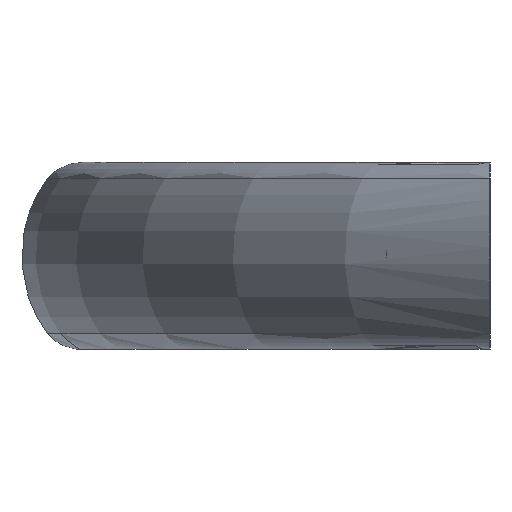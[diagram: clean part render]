
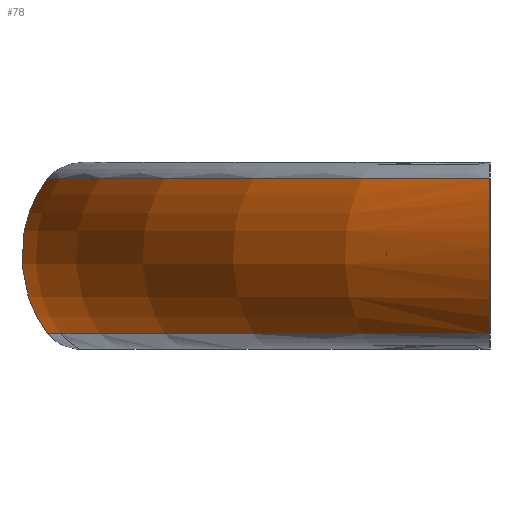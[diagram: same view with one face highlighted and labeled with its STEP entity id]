
A CAD part, left-side view. The second image highlights one B-rep face of the part: STEP entity #78.
In plain terms, the highlighted toroidal (fillet/blend) face has major radius 95.494 mm and minor radius 13.914 mm.
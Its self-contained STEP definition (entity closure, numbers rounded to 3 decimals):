
#78 = ADVANCED_FACE( '', ( #97 ), #98, .T. );
#97 = FACE_OUTER_BOUND( '', #129, .T. );
#98 = TOROIDAL_SURFACE( '', #130, 95.494, 13.914 );
#129 = EDGE_LOOP( '', ( #167, #168, #169, #170 ) );
#130 = AXIS2_PLACEMENT_3D( '', #171, #172, #173 );
#167 = ORIENTED_EDGE( '', *, *, #231, .F. );
#168 = ORIENTED_EDGE( '', *, *, #232, .T. );
#169 = ORIENTED_EDGE( '', *, *, #233, .T. );
#170 = ORIENTED_EDGE( '', *, *, #234, .T. );
#171 = CARTESIAN_POINT( '', ( 0., -59.408, 0. ) );
#172 = DIRECTION( '', ( 0., 0., -1. ) );
#173 = DIRECTION( '', ( -1., 0., 0. ) );
#231 = EDGE_CURVE( '', #254, #255, #256, .T. );
#232 = EDGE_CURVE( '', #254, #257, #258, .T. );
#233 = EDGE_CURVE( '', #257, #259, #260, .T. );
#234 = EDGE_CURVE( '', #259, #255, #261, .T. );
#254 = VERTEX_POINT( '', #286 );
#255 = VERTEX_POINT( '', #287 );
#256 = CIRCLE( '', #288, 106.646 );
#257 = VERTEX_POINT( '', #289 );
#258 = B_SPLINE_CURVE_WITH_KNOTS( '', 3, ( #290, #291, #292, #293, #294, #295, #296, #297, #298, #299, #300, #301, #302, #303, #304, #305, #306, #307, #308, #309, #310, #311 ), .UNSPECIFIED., .F., .F., ( 4, 2, 2, 2, 2, 2, 2, 2, 2, 2, 4 ), ( 0.096, 0.098, 0.1, 0.101, 0.103, 0.105, 0.108, 0.109, 0.11, 0.112, 0.114 ), .UNSPECIFIED. );
#259 = VERTEX_POINT( '', #312 );
#260 = CIRCLE( '', #313, 106.646 );
#261 = B_SPLINE_CURVE_WITH_KNOTS( '', 3, ( #314, #315, #316, #317, #318, #319, #320, #321, #322, #323, #324, #325, #326, #327, #328, #329, #330, #331, #332, #333, #334, #335, #336, #337 ), .UNSPECIFIED., .F., .F., ( 4, 2, 2, 2, 2, 2, 2, 2, 2, 2, 2, 4 ), ( 0.043, 0.044, 0.045, 0.047, 0.048, 0.049, 0.052, 0.054, 0.056, 0.057, 0.058, 0.061 ), .UNSPECIFIED. );
#286 = CARTESIAN_POINT( '', ( -88.567, 0., -8.321 ) );
#287 = CARTESIAN_POINT( '', ( 88.567, 0., -8.321 ) );
#288 = AXIS2_PLACEMENT_3D( '', #485, #486, #487 );
#289 = CARTESIAN_POINT( '', ( -88.567, 0., 8.321 ) );
#290 = CARTESIAN_POINT( '', ( -88.567, 0., -8.321 ) );
#291 = CARTESIAN_POINT( '', ( -89.076, 0., -7.754 ) );
#292 = CARTESIAN_POINT( '', ( -89.545, 0., -7.138 ) );
#293 = CARTESIAN_POINT( '', ( -90.159, 0., -6.168 ) );
#294 = CARTESIAN_POINT( '', ( -90.349, 0., -5.836 ) );
#295 = CARTESIAN_POINT( '', ( -90.7, 0., -5.154 ) );
#296 = CARTESIAN_POINT( '', ( -90.86, 0., -4.803 ) );
#297 = CARTESIAN_POINT( '', ( -91.289, 0., -3.74 ) );
#298 = CARTESIAN_POINT( '', ( -91.506, 0., -3.012 ) );
#299 = CARTESIAN_POINT( '', ( -91.799, 0., -1.52 ) );
#300 = CARTESIAN_POINT( '', ( -91.875, 0., -0.747 ) );
#301 = CARTESIAN_POINT( '', ( -91.873, 0., 0.773 ) );
#302 = CARTESIAN_POINT( '', ( -91.798, 0., 1.528 ) );
#303 = CARTESIAN_POINT( '', ( -91.576, 0., 2.652 ) );
#304 = CARTESIAN_POINT( '', ( -91.483, 0., 3.027 ) );
#305 = CARTESIAN_POINT( '', ( -91.263, 0., 3.76 ) );
#306 = CARTESIAN_POINT( '', ( -91.137, 0., 4.119 ) );
#307 = CARTESIAN_POINT( '', ( -90.709, 0., 5.175 ) );
#308 = CARTESIAN_POINT( '', ( -90.359, 0., 5.852 ) );
#309 = CARTESIAN_POINT( '', ( -89.537, 0., 7.15 ) );
#310 = CARTESIAN_POINT( '', ( -89.075, 0., 7.755 ) );
#311 = CARTESIAN_POINT( '', ( -88.567, 0., 8.321 ) );
#312 = CARTESIAN_POINT( '', ( 88.567, 0., 8.321 ) );
#313 = AXIS2_PLACEMENT_3D( '', #488, #489, #490 );
#314 = CARTESIAN_POINT( '', ( 88.567, 0., 8.321 ) );
#315 = CARTESIAN_POINT( '', ( 88.821, 0., 8.037 ) );
#316 = CARTESIAN_POINT( '', ( 89.067, 0., 7.741 ) );
#317 = CARTESIAN_POINT( '', ( 89.531, 0., 7.129 ) );
#318 = CARTESIAN_POINT( '', ( 89.749, 0., 6.816 ) );
#319 = CARTESIAN_POINT( '', ( 90.358, 0., 5.854 ) );
#320 = CARTESIAN_POINT( '', ( 90.705, 0., 5.182 ) );
#321 = CARTESIAN_POINT( '', ( 91.133, 0., 4.127 ) );
#322 = CARTESIAN_POINT( '', ( 91.261, 0., 3.768 ) );
#323 = CARTESIAN_POINT( '', ( 91.482, 0., 3.032 ) );
#324 = CARTESIAN_POINT( '', ( 91.575, 0., 2.657 ) );
#325 = CARTESIAN_POINT( '', ( 91.797, 0., 1.535 ) );
#326 = CARTESIAN_POINT( '', ( 91.873, 0., 0.78 ) );
#327 = CARTESIAN_POINT( '', ( 91.875, 0., -0.743 ) );
#328 = CARTESIAN_POINT( '', ( 91.8, 0., -1.517 ) );
#329 = CARTESIAN_POINT( '', ( 91.505, 0., -3.014 ) );
#330 = CARTESIAN_POINT( '', ( 91.287, 0., -3.744 ) );
#331 = CARTESIAN_POINT( '', ( 90.857, 0., -4.81 ) );
#332 = CARTESIAN_POINT( '', ( 90.696, 0., -5.162 ) );
#333 = CARTESIAN_POINT( '', ( 90.345, 0., -5.843 ) );
#334 = CARTESIAN_POINT( '', ( 90.155, 0., -6.174 ) );
#335 = CARTESIAN_POINT( '', ( 89.544, 0., -7.14 ) );
#336 = CARTESIAN_POINT( '', ( 89.081, 0., -7.748 ) );
#337 = CARTESIAN_POINT( '', ( 88.567, 0., -8.321 ) );
#485 = CARTESIAN_POINT( '', ( 0., -59.408, -8.321 ) );
#486 = DIRECTION( '', ( 0., 0., -1. ) );
#487 = DIRECTION( '', ( -1., 0., 0. ) );
#488 = CARTESIAN_POINT( '', ( 0., -59.408, 8.321 ) );
#489 = DIRECTION( '', ( 0., 0., -1. ) );
#490 = DIRECTION( '', ( -1., 0., 0. ) );
